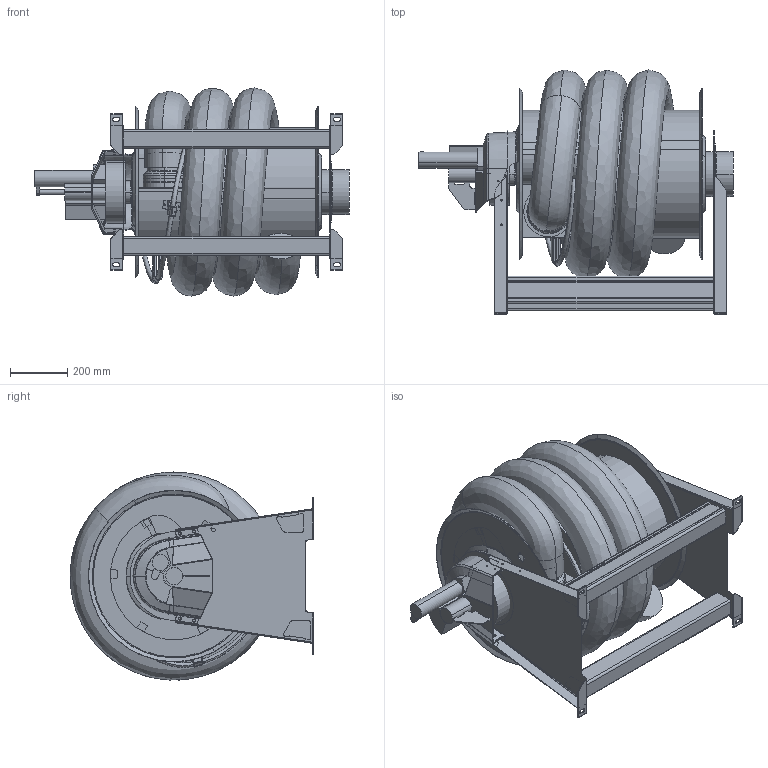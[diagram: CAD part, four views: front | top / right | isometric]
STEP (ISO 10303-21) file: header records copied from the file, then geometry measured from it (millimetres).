
FILE_DESCRIPTION((''),'2;1');
FILE_NAME('ASEM_65_125-5','2022-04-20T15:06:00',('Tomas Bellgran'),(''),'CREO PARAMETRIC BY PTC INC, 2018260','CREO PARAMETRIC BY PTC INC, 2018260','');
FILE_SCHEMA(('AUTOMOTIVE_DESIGN { 1 0 10303 214 1 1 1 1 }'));
Length unit declared in the file: millimetre
Products named in the file (27): 110534; 110536; 110801; 111736; 111735; 110561; 112850; 110528; 110591; 110651; G_ASE_DUMMY; 124129; G_ASL-EVO_150CON_BRACKET; GUIDE_125; 110660; 124297; ASEM_DRUM_65_125; AG_HOSE_125_140_5; 143740; 143700; 143550; 144299; 143702; 144230; 111192_NEW; 104504_L; ASEM_65_125-5
Assembly tree (30 placements, depth 4):
  ASEM_65_125-5
    110561
      110534
      110536
      110801  x2
      111736
      111735
    112850  x2
    ASEM_DRUM_65_125
      110528  x2
      110591
      110651
      G_ASL-EVO_150CON_BRACKET
        G_ASE_DUMMY
        124129
      GUIDE_125
      110660  x2
      124297
    AG_HOSE_125_140_5
    104504_L
      143740
      143702
        143700
        143550
        144299
      144230
      111192_NEW
Bounding box: 1102 x 854.98 x 729.6 mm (x, y, z)
Volume: 192604919.3 mm3; surface area: 8944261.3 mm2
Topology: 25 solids, 28 shells, 1060 faces, 2493 edges, 1496 vertices
Faces by surface type: plane 544, cylinder 325, bspline 87, torus 72, cone 32
Entity records: 51248 total; most frequent: CARTESIAN_POINT 15779, DIRECTION 4668, ORIENTED_EDGE 4102, EDGE_CURVE 2055, AXIS2_PLACEMENT_3D 1669, PRESENTATION_STYLE_ASSIGNMENT 1639, STYLED_ITEM 1638, PROPERTY_DEFINITION 1432
